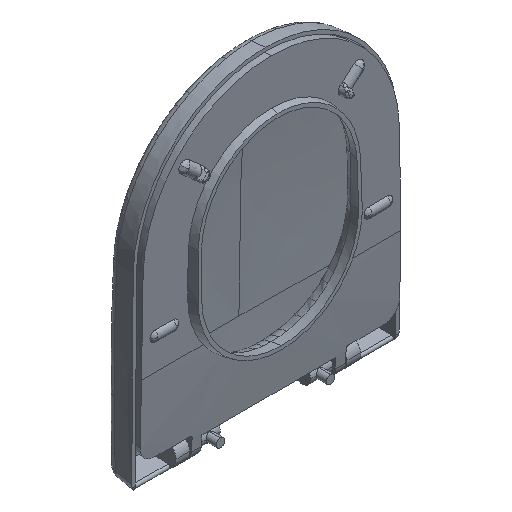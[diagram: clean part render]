
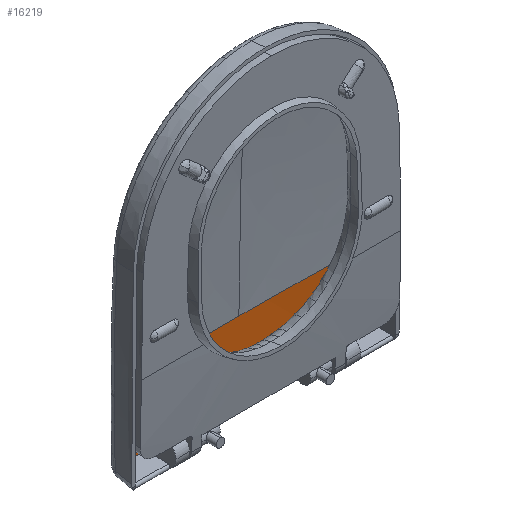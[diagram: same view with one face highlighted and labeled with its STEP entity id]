
A CAD part, isometric view. The second image highlights one B-rep face of the part: STEP entity #16219.
In plain terms, the highlighted cylindrical face has radius 4827.97 mm (diameter 9655.93 mm), a partial arc.
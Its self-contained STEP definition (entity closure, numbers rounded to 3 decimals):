
#301=CARTESIAN_POINT('Control Point',(110.238,50.291,19.692)) ;
#302=CARTESIAN_POINT('Control Point',(114.322,50.198,19.684)) ;
#303=CARTESIAN_POINT('Control Point',(118.406,50.1,19.675)) ;
#304=CARTESIAN_POINT('Control Point',(122.49,49.999,19.666)) ;
#305=CARTESIAN_POINT('Control Point',(126.573,49.892,19.657)) ;
#306=CARTESIAN_POINT('Control Point',(130.657,49.782,19.647)) ;
#307=CARTESIAN_POINT('Vertex',(110.238,50.291,19.692)) ;
#309=CARTESIAN_POINT('Vertex',(130.657,49.782,19.647)) ;
#488=CARTESIAN_POINT('Vertex',(132.887,49.721,-5.875)) ;
#492=CARTESIAN_POINT('Control Point',(130.657,49.782,19.647)) ;
#493=CARTESIAN_POINT('Control Point',(131.103,49.77,14.543)) ;
#494=CARTESIAN_POINT('Control Point',(131.549,49.758,9.439)) ;
#495=CARTESIAN_POINT('Control Point',(131.995,49.745,4.334)) ;
#496=CARTESIAN_POINT('Control Point',(132.441,49.733,-0.77)) ;
#497=CARTESIAN_POINT('Control Point',(132.887,49.721,-5.875)) ;
#2086=CARTESIAN_POINT('Vertex',(0.,51.55,90.)) ;
#2090=CARTESIAN_POINT('Control Point',(172.181,48.479,90.)) ;
#2091=CARTESIAN_POINT('Control Point',(132.136,49.908,90.)) ;
#2092=CARTESIAN_POINT('Control Point',(96.777,50.756,90.)) ;
#2093=CARTESIAN_POINT('Control Point',(63.709,51.289,90.)) ;
#2094=CARTESIAN_POINT('Control Point',(31.858,51.55,90.)) ;
#2095=CARTESIAN_POINT('Control Point',(0.,51.55,90.)) ;
#2096=CARTESIAN_POINT('Vertex',(172.181,48.479,90.)) ;
#2444=CARTESIAN_POINT('Control Point',(172.181,48.479,90.)) ;
#2445=CARTESIAN_POINT('Control Point',(172.22,48.477,73.19)) ;
#2446=CARTESIAN_POINT('Control Point',(172.204,48.478,56.378)) ;
#2447=CARTESIAN_POINT('Control Point',(172.133,48.48,39.564)) ;
#2448=CARTESIAN_POINT('Control Point',(171.99,48.486,20.366)) ;
#2449=CARTESIAN_POINT('Control Point',(171.776,48.493,1.166)) ;
#2450=CARTESIAN_POINT('Control Point',(171.748,48.494,-1.217)) ;
#2451=CARTESIAN_POINT('Control Point',(171.72,48.495,-3.599)) ;
#2452=CARTESIAN_POINT('Control Point',(171.692,48.496,-5.982)) ;
#2453=CARTESIAN_POINT('Vertex',(171.692,48.496,-5.982)) ;
#2514=CARTESIAN_POINT('Control Point',(132.887,49.721,-5.875)) ;
#2515=CARTESIAN_POINT('Control Point',(134.711,49.671,-5.879)) ;
#2516=CARTESIAN_POINT('Control Point',(136.536,49.619,-5.884)) ;
#2517=CARTESIAN_POINT('Control Point',(138.361,49.568,-5.888)) ;
#2518=CARTESIAN_POINT('Control Point',(146.122,49.343,-5.908)) ;
#2519=CARTESIAN_POINT('Control Point',(153.883,49.102,-5.929)) ;
#2520=CARTESIAN_POINT('Control Point',(159.82,48.91,-5.946)) ;
#2521=CARTESIAN_POINT('Control Point',(165.756,48.707,-5.963)) ;
#2522=CARTESIAN_POINT('Control Point',(171.692,48.496,-5.982)) ;
#10103=CARTESIAN_POINT('Vertex',(-172.181,48.479,90.)) ;
#10107=CARTESIAN_POINT('Control Point',(-172.181,48.479,90.)) ;
#10108=CARTESIAN_POINT('Control Point',(-132.136,49.908,90.)) ;
#10109=CARTESIAN_POINT('Control Point',(-96.777,50.756,90.)) ;
#10110=CARTESIAN_POINT('Control Point',(-63.709,51.289,90.)) ;
#10111=CARTESIAN_POINT('Control Point',(-31.858,51.55,90.)) ;
#10112=CARTESIAN_POINT('Control Point',(0.,51.55,90.)) ;
#15310=CARTESIAN_POINT('Vertex',(-110.238,50.291,7.812)) ;
#15313=CARTESIAN_POINT('Line Origine',(-110.238,50.291,13.752)) ;
#15317=CARTESIAN_POINT('Vertex',(-110.238,50.291,19.692)) ;
#15344=CARTESIAN_POINT('Vertex',(-130.657,49.782,19.647)) ;
#15348=CARTESIAN_POINT('Control Point',(-110.238,50.291,19.692)) ;
#15349=CARTESIAN_POINT('Control Point',(-114.322,50.198,19.684)) ;
#15350=CARTESIAN_POINT('Control Point',(-118.406,50.1,19.675)) ;
#15351=CARTESIAN_POINT('Control Point',(-122.49,49.999,19.666)) ;
#15352=CARTESIAN_POINT('Control Point',(-126.573,49.892,19.657)) ;
#15353=CARTESIAN_POINT('Control Point',(-130.657,49.782,19.647)) ;
#15368=CARTESIAN_POINT('Control Point',(-130.657,49.782,19.647)) ;
#15369=CARTESIAN_POINT('Control Point',(-131.103,49.77,14.543)) ;
#15370=CARTESIAN_POINT('Control Point',(-131.549,49.758,9.439)) ;
#15371=CARTESIAN_POINT('Control Point',(-131.995,49.745,4.334)) ;
#15372=CARTESIAN_POINT('Control Point',(-132.441,49.733,-0.77)) ;
#15373=CARTESIAN_POINT('Control Point',(-132.887,49.721,-5.875)) ;
#15374=CARTESIAN_POINT('Vertex',(-132.887,49.721,-5.875)) ;
#15491=CARTESIAN_POINT('Vertex',(-171.692,48.496,-5.982)) ;
#15495=CARTESIAN_POINT('Control Point',(-172.181,48.479,90.)) ;
#15496=CARTESIAN_POINT('Control Point',(-172.22,48.477,73.19)) ;
#15497=CARTESIAN_POINT('Control Point',(-172.204,48.478,56.378)) ;
#15498=CARTESIAN_POINT('Control Point',(-172.133,48.48,39.564)) ;
#15499=CARTESIAN_POINT('Control Point',(-171.99,48.486,20.366)) ;
#15500=CARTESIAN_POINT('Control Point',(-171.776,48.493,1.166)) ;
#15501=CARTESIAN_POINT('Control Point',(-171.748,48.494,-1.217)) ;
#15502=CARTESIAN_POINT('Control Point',(-171.72,48.495,-3.599)) ;
#15503=CARTESIAN_POINT('Control Point',(-171.692,48.496,-5.982)) ;
#15513=CARTESIAN_POINT('Control Point',(-132.887,49.721,-5.875)) ;
#15514=CARTESIAN_POINT('Control Point',(-134.711,49.671,-5.879)) ;
#15515=CARTESIAN_POINT('Control Point',(-136.536,49.619,-5.884)) ;
#15516=CARTESIAN_POINT('Control Point',(-138.361,49.568,-5.888)) ;
#15517=CARTESIAN_POINT('Control Point',(-146.122,49.343,-5.908)) ;
#15518=CARTESIAN_POINT('Control Point',(-153.883,49.102,-5.929)) ;
#15519=CARTESIAN_POINT('Control Point',(-159.82,48.91,-5.946)) ;
#15520=CARTESIAN_POINT('Control Point',(-165.756,48.707,-5.963)) ;
#15521=CARTESIAN_POINT('Control Point',(-171.692,48.496,-5.982)) ;
#16187=CARTESIAN_POINT('Axis2P3D Location',(0.,-4776.416,47.965)) ;
#16192=CARTESIAN_POINT('Axis2P3D Location',(0.,-4776.416,7.812)) ;
#16196=CARTESIAN_POINT('Vertex',(110.238,50.291,7.812)) ;
#16199=CARTESIAN_POINT('Line Origine',(110.238,50.291,-1.406)) ;
#15314=DIRECTION('Vector Direction',(0.,0.,-1.)) ;
#16188=DIRECTION('Axis2P3D Direction',(0.,-0.,1.)) ;
#16189=DIRECTION('Axis2P3D XDirection',(0.023,1.,0.)) ;
#16193=DIRECTION('Axis2P3D Direction',(0.,-0.,1.)) ;
#16200=DIRECTION('Vector Direction',(0.,0.,1.)) ;
#16190=AXIS2_PLACEMENT_3D('Cylinder Axis2P3D',#16187,#16188,#16189) ;
#16194=AXIS2_PLACEMENT_3D('Circle Axis2P3D',#16192,#16193,$) ;
#16205=ORIENTED_EDGE('',*,*,#10113,.T.) ;
#16206=ORIENTED_EDGE('',*,*,#15504,.T.) ;
#16207=ORIENTED_EDGE('',*,*,#15522,.F.) ;
#16208=ORIENTED_EDGE('',*,*,#15376,.F.) ;
#16209=ORIENTED_EDGE('',*,*,#15354,.F.) ;
#16210=ORIENTED_EDGE('',*,*,#15319,.T.) ;
#16211=ORIENTED_EDGE('',*,*,#16198,.T.) ;
#16212=ORIENTED_EDGE('',*,*,#16203,.F.) ;
#16213=ORIENTED_EDGE('',*,*,#311,.T.) ;
#16214=ORIENTED_EDGE('',*,*,#498,.T.) ;
#16215=ORIENTED_EDGE('',*,*,#2523,.T.) ;
#16216=ORIENTED_EDGE('',*,*,#2455,.F.) ;
#16217=ORIENTED_EDGE('',*,*,#2098,.F.) ;
#15315=VECTOR('Line Direction',#15314,1.) ;
#16201=VECTOR('Line Direction',#16200,1.) ;
#16219=ADVANCED_FACE('Hauptk\X2\00F6\X0\rper',(#16218),#16191,.F.) ;
#300=B_SPLINE_CURVE_WITH_KNOTS('',5,(#301,#302,#303,#304,#305,#306),.UNSPECIFIED.,.F.,.U.,(6,6),(0.,28.886),.UNSPECIFIED.) ;
#491=B_SPLINE_CURVE_WITH_KNOTS('',5,(#492,#493,#494,#495,#496,#497),.UNSPECIFIED.,.F.,.U.,(6,6),(13.021,49.253),.UNSPECIFIED.) ;
#2089=B_SPLINE_CURVE_WITH_KNOTS('',5,(#2090,#2091,#2092,#2093,#2094,#2095),.UNSPECIFIED.,.F.,.U.,(6,6),(0.,1133.671),.UNSPECIFIED.) ;
#2513=B_SPLINE_CURVE_WITH_KNOTS('',5,(#2514,#2515,#2516,#2517,#2518,#2519,#2520,#2521,#2522),.UNSPECIFIED.,.F.,.U.,(6,3,6),(11.014,23.921,65.92),.UNSPECIFIED.) ;
#10106=B_SPLINE_CURVE_WITH_KNOTS('',5,(#10107,#10108,#10109,#10110,#10111,#10112),.UNSPECIFIED.,.F.,.U.,(6,6),(0.,1133.671),.UNSPECIFIED.) ;
#15347=B_SPLINE_CURVE_WITH_KNOTS('',5,(#15348,#15349,#15350,#15351,#15352,#15353),.UNSPECIFIED.,.F.,.U.,(6,6),(0.,28.886),.UNSPECIFIED.) ;
#15367=B_SPLINE_CURVE_WITH_KNOTS('',5,(#15368,#15369,#15370,#15371,#15372,#15373),.UNSPECIFIED.,.F.,.U.,(6,6),(13.021,49.253),.UNSPECIFIED.) ;
#15512=B_SPLINE_CURVE_WITH_KNOTS('',5,(#15513,#15514,#15515,#15516,#15517,#15518,#15519,#15520,#15521),.UNSPECIFIED.,.F.,.U.,(6,3,6),(11.014,23.921,65.92),.UNSPECIFIED.) ;
#16195=CIRCLE('generated circle',#16194,4827.966) ;
#16191=CYLINDRICAL_SURFACE('generated cylinder',#16190,4827.966) ;
#311=EDGE_CURVE('',#308,#310,#300,.T.) ;
#498=EDGE_CURVE('',#310,#489,#491,.T.) ;
#2098=EDGE_CURVE('',#2087,#2097,#2089,.F.) ;
#2455=EDGE_CURVE('',#2097,#2454,#2443,.T.) ;
#2523=EDGE_CURVE('',#489,#2454,#2513,.T.) ;
#10113=EDGE_CURVE('',#2087,#10104,#10106,.F.) ;
#15319=EDGE_CURVE('',#15318,#15311,#15316,.T.) ;
#15354=EDGE_CURVE('',#15318,#15345,#15347,.T.) ;
#15376=EDGE_CURVE('',#15345,#15375,#15367,.T.) ;
#15504=EDGE_CURVE('',#10104,#15492,#15494,.T.) ;
#15522=EDGE_CURVE('',#15375,#15492,#15512,.T.) ;
#16198=EDGE_CURVE('',#15311,#16197,#16195,.F.) ;
#16203=EDGE_CURVE('',#308,#16197,#16202,.F.) ;
#16204=EDGE_LOOP('',(#16205,#16206,#16207,#16208,#16209,#16210,#16211,#16212,#16213,#16214,#16215,#16216,#16217)) ;
#16218=FACE_OUTER_BOUND('',#16204,.T.) ;
#15316=LINE('Line',#15313,#15315) ;
#16202=LINE('Line',#16199,#16201) ;
#308=VERTEX_POINT('',#307) ;
#310=VERTEX_POINT('',#309) ;
#489=VERTEX_POINT('',#488) ;
#2087=VERTEX_POINT('',#2086) ;
#2097=VERTEX_POINT('',#2096) ;
#2454=VERTEX_POINT('',#2453) ;
#10104=VERTEX_POINT('',#10103) ;
#15311=VERTEX_POINT('',#15310) ;
#15318=VERTEX_POINT('',#15317) ;
#15345=VERTEX_POINT('',#15344) ;
#15375=VERTEX_POINT('',#15374) ;
#15492=VERTEX_POINT('',#15491) ;
#16197=VERTEX_POINT('',#16196) ;
#2443=(BOUNDED_CURVE()B_SPLINE_CURVE(5,(#2444,#2445,#2446,#2447,#2448,#2449,#2450,#2451,#2452),.UNSPECIFIED.,.F.,.U.)B_SPLINE_CURVE_WITH_KNOTS((6,3,6),(0.502,84.655,96.576),.UNSPECIFIED.)CURVE()GEOMETRIC_REPRESENTATION_ITEM()RATIONAL_B_SPLINE_CURVE((1.,1.,1.,1.,1.,1.,1.,1.,1.))REPRESENTATION_ITEM('')) ;
#15494=(BOUNDED_CURVE()B_SPLINE_CURVE(5,(#15495,#15496,#15497,#15498,#15499,#15500,#15501,#15502,#15503),.UNSPECIFIED.,.F.,.U.)B_SPLINE_CURVE_WITH_KNOTS((6,3,6),(0.502,84.655,96.576),.UNSPECIFIED.)CURVE()GEOMETRIC_REPRESENTATION_ITEM()RATIONAL_B_SPLINE_CURVE((1.,1.,1.,1.,1.,1.,1.,1.,1.))REPRESENTATION_ITEM('')) ;
